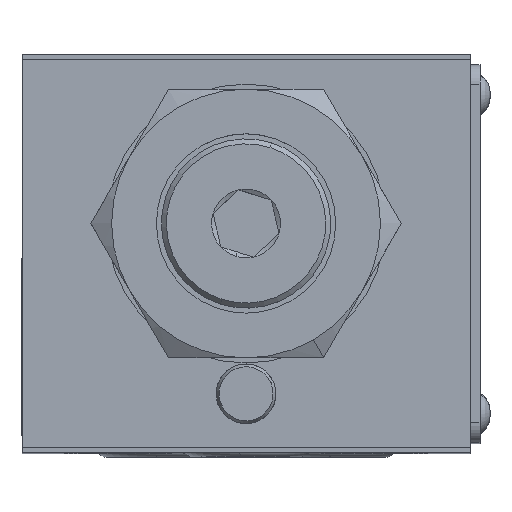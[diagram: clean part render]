
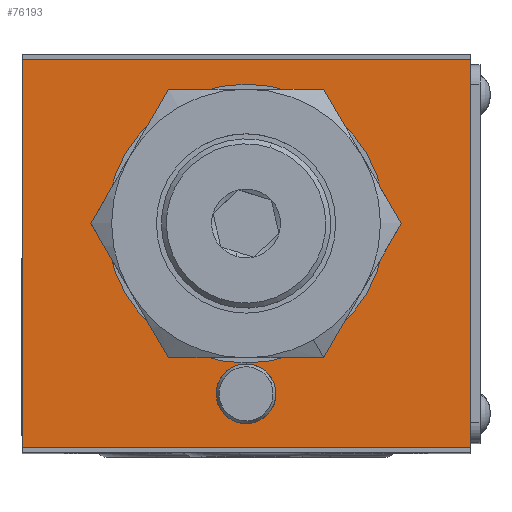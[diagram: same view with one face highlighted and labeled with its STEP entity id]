
A CAD part, top view. The second image highlights one B-rep face of the part: STEP entity #76193.
In plain terms, the highlighted planar face has unit normal (0, 0, 1).
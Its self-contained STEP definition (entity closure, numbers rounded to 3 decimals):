
#58 = CARTESIAN_POINT ( 'NONE',  ( -22.5, 19.5, 46.5 ) ) ;
#146 = FACE_BOUND ( 'NONE', #84215, .T. ) ;
#361 = ORIENTED_EDGE ( 'NONE', *, *, #51223, .T. ) ;
#1079 = EDGE_CURVE ( 'NONE', #55798, #17165, #78115, .T. ) ;
#2466 = CARTESIAN_POINT ( 'NONE',  ( 0., -14.1, 46.5 ) ) ;
#2689 = DIRECTION ( 'NONE',  ( 1., 0., 0. ) ) ;
#2890 = LINE ( 'NONE', #58, #62535 ) ;
#3096 = ORIENTED_EDGE ( 'NONE', *, *, #54931, .F. ) ;
#5665 = VERTEX_POINT ( 'NONE', #70600 ) ;
#6020 = ORIENTED_EDGE ( 'NONE', *, *, #1079, .F. ) ;
#6764 = CARTESIAN_POINT ( 'NONE',  ( 22.5, -19.5, 46.5 ) ) ;
#6854 = EDGE_LOOP ( 'NONE', ( #31380, #20682 ) ) ;
#7851 = VERTEX_POINT ( 'NONE', #45951 ) ;
#8321 = EDGE_CURVE ( 'NONE', #55798, #7851, #35526, .T. ) ;
#8764 = CIRCLE ( 'NONE', #76750, 3. ) ;
#9302 = VERTEX_POINT ( 'NONE', #85778 ) ;
#9909 = CARTESIAN_POINT ( 'NONE',  ( -22.5, -20., 46.5 ) ) ;
#9983 = DIRECTION ( 'NONE',  ( 1., 0., 0. ) ) ;
#14431 = DIRECTION ( 'NONE',  ( 0., 0., 1. ) ) ;
#14447 = EDGE_CURVE ( 'NONE', #93904, #7851, #2890, .T. ) ;
#17165 = VERTEX_POINT ( 'NONE', #92295 ) ;
#20009 = FACE_BOUND ( 'NONE', #6854, .T. ) ;
#20506 = CARTESIAN_POINT ( 'NONE',  ( 0., 3., 46.5 ) ) ;
#20682 = ORIENTED_EDGE ( 'NONE', *, *, #77981, .F. ) ;
#24327 = AXIS2_PLACEMENT_3D ( 'NONE', #9909, #47445, #2689 ) ;
#27167 = EDGE_CURVE ( 'NONE', #9302, #83836, #65562, .T. ) ;
#28008 = DIRECTION ( 'NONE',  ( 1., 0., 0. ) ) ;
#29731 = CARTESIAN_POINT ( 'NONE',  ( -22.5, 20., 46.5 ) ) ;
#31380 = ORIENTED_EDGE ( 'NONE', *, *, #27167, .F. ) ;
#33134 = CIRCLE ( 'NONE', #57176, 14. ) ;
#34082 = CARTESIAN_POINT ( 'NONE',  ( 22.5, 20., 46.5 ) ) ;
#35526 = LINE ( 'NONE', #34082, #55391 ) ;
#35786 = EDGE_CURVE ( 'NONE', #91448, #5665, #55421, .T. ) ;
#39624 = CARTESIAN_POINT ( 'NONE',  ( 0., -14.1, 46.5 ) ) ;
#39976 = PLANE ( 'NONE',  #24327 ) ;
#41246 = CARTESIAN_POINT ( 'NONE',  ( 22.5, -19.5, 46.5 ) ) ;
#45866 = ORIENTED_EDGE ( 'NONE', *, *, #35786, .F. ) ;
#45951 = CARTESIAN_POINT ( 'NONE',  ( 22.5, 19.5, 46.5 ) ) ;
#47104 = DIRECTION ( 'NONE',  ( 1., 0., 0. ) ) ;
#47445 = DIRECTION ( 'NONE',  ( 0., 0., 1. ) ) ;
#48744 = DIRECTION ( 'NONE',  ( -1., 0., 0. ) ) ;
#50017 = AXIS2_PLACEMENT_3D ( 'NONE', #39624, #91838, #47104 ) ;
#51223 = EDGE_CURVE ( 'NONE', #93904, #17165, #82847, .T. ) ;
#51734 = EDGE_LOOP ( 'NONE', ( #6020, #53066, #53251, #361 ) ) ;
#53066 = ORIENTED_EDGE ( 'NONE', *, *, #8321, .T. ) ;
#53251 = ORIENTED_EDGE ( 'NONE', *, *, #14447, .F. ) ;
#54736 = DIRECTION ( 'NONE',  ( 0., 0., 1. ) ) ;
#54931 = EDGE_CURVE ( 'NONE', #5665, #91448, #33134, .T. ) ;
#55391 = VECTOR ( 'NONE', #93826, 1000. ) ;
#55421 = CIRCLE ( 'NONE', #71817, 14. ) ;
#55798 = VERTEX_POINT ( 'NONE', #6764 ) ;
#55916 = VECTOR ( 'NONE', #48744, 1000. ) ;
#57176 = AXIS2_PLACEMENT_3D ( 'NONE', #59260, #14431, #66742 ) ;
#57432 = FACE_OUTER_BOUND ( 'NONE', #51734, .T. ) ;
#59260 = CARTESIAN_POINT ( 'NONE',  ( 0., 3., 46.5 ) ) ;
#62535 = VECTOR ( 'NONE', #89204, 1000. ) ;
#65562 = CIRCLE ( 'NONE', #50017, 3. ) ;
#66742 = DIRECTION ( 'NONE',  ( 1., 0., 0. ) ) ;
#67009 = DIRECTION ( 'NONE',  ( 0., -1., 0. ) ) ;
#68019 = CARTESIAN_POINT ( 'NONE',  ( -14., 3., 46.5 ) ) ;
#70600 = CARTESIAN_POINT ( 'NONE',  ( 14., 3., 46.5 ) ) ;
#71817 = AXIS2_PLACEMENT_3D ( 'NONE', #20506, #72751, #28008 ) ;
#72751 = DIRECTION ( 'NONE',  ( 0., 0., 1. ) ) ;
#76193 = ADVANCED_FACE ( 'NONE', ( #57432, #20009, #146 ), #39976, .T. ) ;
#76750 = AXIS2_PLACEMENT_3D ( 'NONE', #2466, #54736, #9983 ) ;
#77981 = EDGE_CURVE ( 'NONE', #83836, #9302, #8764, .T. ) ;
#78115 = LINE ( 'NONE', #41246, #55916 ) ;
#80132 = CARTESIAN_POINT ( 'NONE',  ( -3., -14.1, 46.5 ) ) ;
#80513 = VECTOR ( 'NONE', #67009, 1000. ) ;
#82847 = LINE ( 'NONE', #29731, #80513 ) ;
#83836 = VERTEX_POINT ( 'NONE', #80132 ) ;
#84215 = EDGE_LOOP ( 'NONE', ( #3096, #45866 ) ) ;
#85102 = CARTESIAN_POINT ( 'NONE',  ( -22.5, 19.5, 46.5 ) ) ;
#85778 = CARTESIAN_POINT ( 'NONE',  ( 3., -14.1, 46.5 ) ) ;
#89204 = DIRECTION ( 'NONE',  ( 1., 0., 0. ) ) ;
#91448 = VERTEX_POINT ( 'NONE', #68019 ) ;
#91838 = DIRECTION ( 'NONE',  ( 0., 0., 1. ) ) ;
#92295 = CARTESIAN_POINT ( 'NONE',  ( -22.5, -19.5, 46.5 ) ) ;
#93826 = DIRECTION ( 'NONE',  ( 0., 1., 0. ) ) ;
#93904 = VERTEX_POINT ( 'NONE', #85102 ) ;
